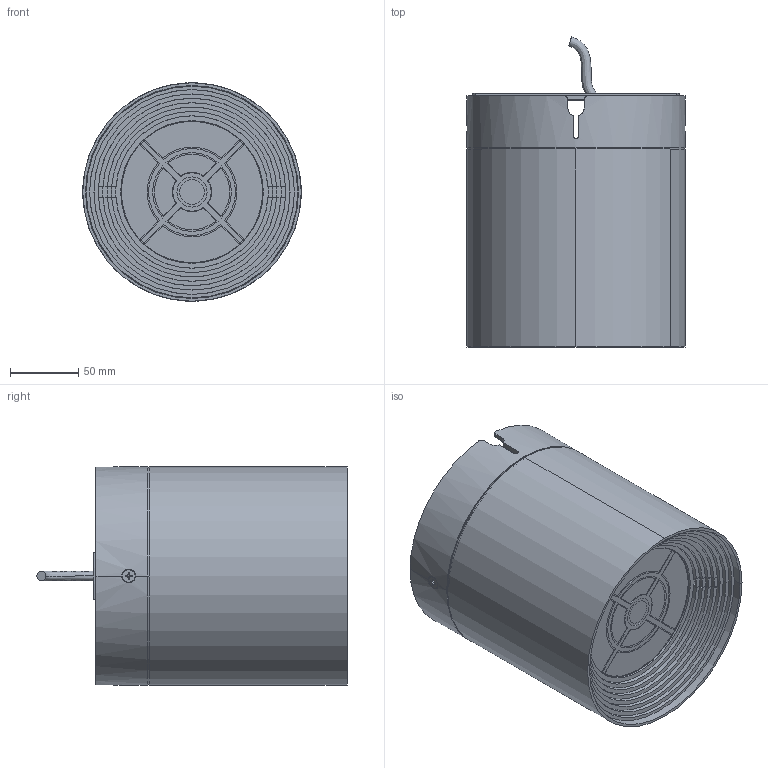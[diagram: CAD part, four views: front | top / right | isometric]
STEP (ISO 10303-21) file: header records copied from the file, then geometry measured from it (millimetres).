
FILE_DESCRIPTION((''),'2;1');
FILE_NAME('B8EJ0171_ASM','2024-11-22T',('Administrator'),(''),'CREO PARAMETRIC BY PTC INC, 2014500','CREO PARAMETRIC BY PTC INC, 2014500','');
FILE_SCHEMA(('CONFIG_CONTROL_DESIGN'));
Length unit declared in the file: millimetre
Products named in the file (44): 8EJ_DT_NEI_DAN_1; 8EJ_SRLB_1; 7CH-JUEYUANMUZUHE; 8EJ-NEIDAN_ASM; 8EJ-NG00_ASM; 8EJ_DT_B_1; 8EJ_DT_ASM; 8EJ-HG; 8EJ_HG_FST_1; KA_XIAN_QI_D12_1; ISO4032-M8-6_1; DIAO_XIAN_ZJ_ASM_1_ASM; ICRFC0602_1; M12A_1; DX_1; 7BC015_M16A_1; M12A_DXZ_ASM_1_ASM; 8EJ_HG_ASM; TOU_JING_D90_H23_ZJ_1; TOU_JING_D90_H23_1; B3BU-COB_SRLB_1; TOU_JING_ZJ_B57_PC_H23_1; ICRFC0401_1; ISO7045-M3X10-4_8_1; 8EJ-D90FGQ; B57_ASM; 8EJ-00_ASM; 160-ZHIZHANGBAN; 160-FANGSHUITIAO-00; 160-MG; 160-BOLI-01; 160-FGQ; 160-FANGXUANWANG; JIAOSAI; 160-NEIYUAN; 8EJ_GU_DING_JIA_1; 8EKHANJIEZHIJIA; BIZUO_ASM; PAOMIAN; JIAOSAI-8EJ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
Assembly tree (47 placements, depth 5):
  B8EJ0171_ASM
    8EJ-00_ASM
      8EJ-NG00_ASM
        8EJ-NEIDAN_ASM
          8EJ_DT_NEI_DAN_1
          8EJ_SRLB_1
          7CH-JUEYUANMUZUHE
      8EJ_DT_ASM
        8EJ_DT_B_1
      8EJ_HG_ASM
        8EJ-HG
        8EJ_HG_FST_1
        DIAO_XIAN_ZJ_ASM_1_ASM
          KA_XIAN_QI_D12_1
          ISO4032-M8-6_1
        ICRFC0602_1  x2
        M12A_DXZ_ASM_1_ASM
          M12A_1
          DX_1
          7BC015_M16A_1
      B57_ASM
        TOU_JING_D90_H23_ZJ_1
        TOU_JING_D90_H23_1
        B3BU-COB_SRLB_1
        TOU_JING_ZJ_B57_PC_H23_1
        ICRFC0401_1  x2
        ISO7045-M3X10-4_8_1  x2
        8EJ-D90FGQ
    160-ZHIZHANGBAN
    160-FANGSHUITIAO-00
    160-MG
    160-BOLI-01
    160-FGQ
    160-FANGXUANWANG
    JIAOSAI  x2
    160-NEIYUAN
    BIZUO_ASM
      8EJ_GU_DING_JIA_1
      8EKHANJIEZHIJIA
    PAOMIAN
    JIAOSAI-8EJ
    DIANQUAN
    8EK-BAOQUAN
    LV-ZHEGUANGZHAO-8EK
Bounding box: 160 x 227.27 x 160 mm (x, y, z)
Volume: 1015539.2 mm3; surface area: 690228.9 mm2
Topology: 38 solids, 38 shells, 2781 faces, 7537 edges, 4902 vertices
Faces by surface type: plane 1658, cylinder 652, cone 282, torus 99, bspline 79, sphere 10, extrusion 1
Entity records: 91577 total; most frequent: CARTESIAN_POINT 24322, ORIENTED_EDGE 14044, DIRECTION 13729, EDGE_CURVE 7022, VERTEX_POINT 4652, AXIS2_PLACEMENT_3D 4603, VECTOR 4523, LINE 4522
